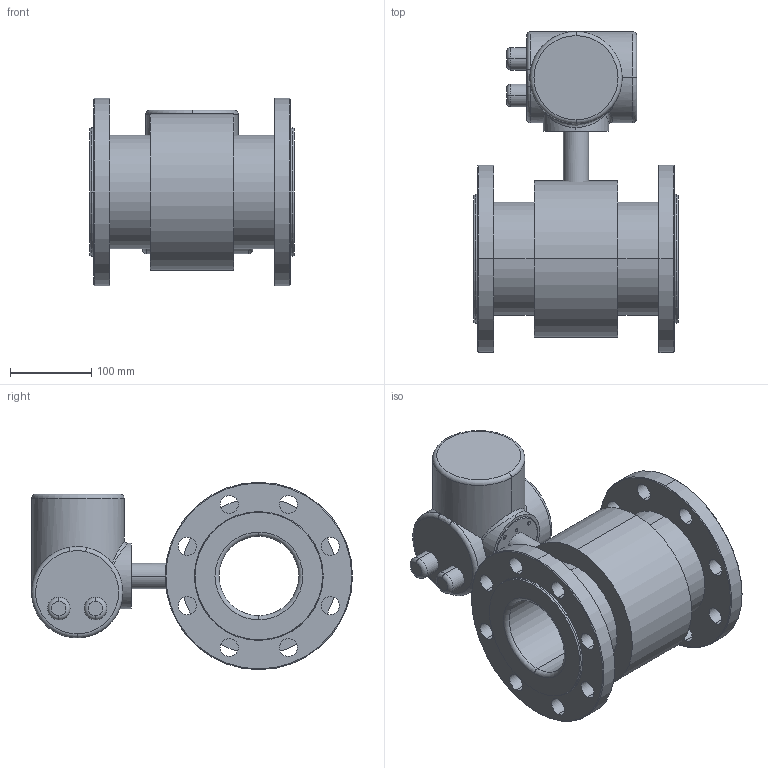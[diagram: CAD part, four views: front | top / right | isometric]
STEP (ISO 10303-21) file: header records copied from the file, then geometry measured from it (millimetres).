
FILE_DESCRIPTION (( 'STEP AP203' ), '1' );
FILE_NAME ('Ðàñõîäîìåð-ñ÷åò÷èê ýëåêòðîìàãíèòíûé ÏÈÒÅÐÔËÎÓ Ò3 - 100 Ex.STEP', '2022-06-24T08:10:39', ( '' ), ( '' ), 'SwSTEP 2.0', 'SolidWorks 2016', '' );
FILE_SCHEMA (( 'CONFIG_CONTROL_DESIGN' ));
Length unit declared in the file: millimetre
Products named in the file (1): Ðàñõîäîìåð-ñ÷åò÷èê ýëåêòðîìàãíèòíûé ÏÈÒÅÐÔËÎÓ Ò3 - 100 Ex
Bounding box: 250.6 x 394 x 230 mm (x, y, z)
Volume: 6464100 mm3; surface area: 499955.7 mm2
Topology: 5 solids, 5 shells, 231 faces, 564 edges, 358 vertices
Faces by surface type: cylinder 110, cone 60, plane 42, torus 14, bspline 4, sphere 1
Entity records: 9502 total; most frequent: CARTESIAN_POINT 3784, DIRECTION 1253, ORIENTED_EDGE 1128, EDGE_CURVE 564, AXIS2_PLACEMENT_3D 539, VERTEX_POINT 358, CIRCLE 311, EDGE_LOOP 294
